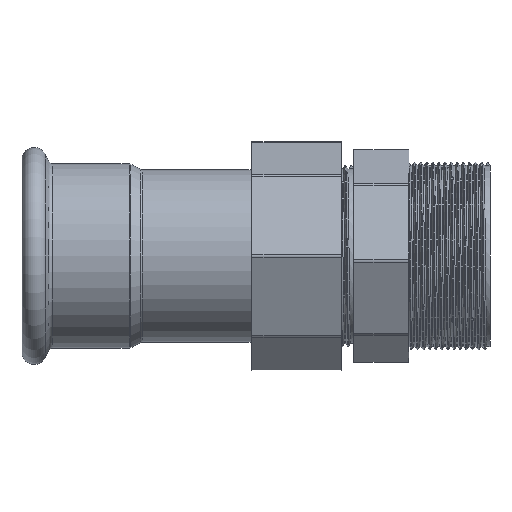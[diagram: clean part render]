
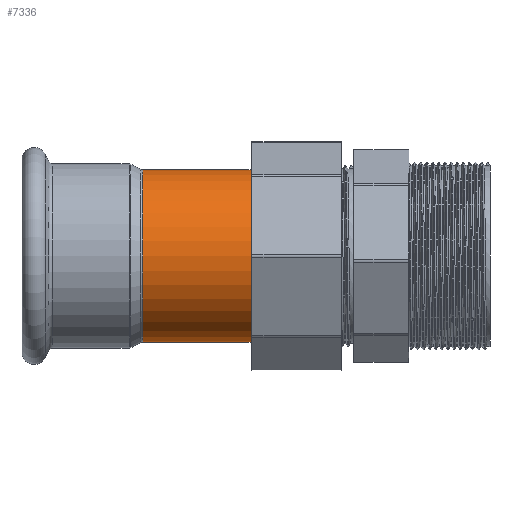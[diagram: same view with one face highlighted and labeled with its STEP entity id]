
A CAD part, front view. The second image highlights one B-rep face of the part: STEP entity #7336.
In plain terms, the highlighted cylindrical face has radius 21.15 mm (diameter 42.3 mm), a partial arc.
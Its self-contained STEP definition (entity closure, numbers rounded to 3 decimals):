
#164 = ORIENTED_EDGE ( 'NONE', *, *, #1052, .T. ) ;
#601 = CARTESIAN_POINT ( 'NONE',  ( -18.377, 0., 0. ) ) ;
#866 = CARTESIAN_POINT ( 'NONE',  ( -18.377, 0., 21.15 ) ) ;
#1000 = CARTESIAN_POINT ( 'NONE',  ( 10., 0., 21.15 ) ) ;
#1052 = EDGE_CURVE ( 'NONE', #11323, #5027, #5695, .T. ) ;
#1234 = CARTESIAN_POINT ( 'NONE',  ( 10., 0., 0. ) ) ;
#1800 = VECTOR ( 'NONE', #8638, 1000. ) ;
#1843 = VECTOR ( 'NONE', #3017, 1000. ) ;
#2811 = CARTESIAN_POINT ( 'NONE',  ( 0., 0., 0. ) ) ;
#2958 = CARTESIAN_POINT ( 'NONE',  ( 0., 0., -21.15 ) ) ;
#3017 = DIRECTION ( 'NONE',  ( -1., 0., 0. ) ) ;
#3147 = ORIENTED_EDGE ( 'NONE', *, *, #3165, .F. ) ;
#3165 = EDGE_CURVE ( 'NONE', #10777, #10515, #10081, .T. ) ;
#3263 = AXIS2_PLACEMENT_3D ( 'NONE', #601, #4122, #7864 ) ;
#3362 = AXIS2_PLACEMENT_3D ( 'NONE', #1234, #7664, #8573 ) ;
#3693 = CYLINDRICAL_SURFACE ( 'NONE', #5750, 21.15 ) ;
#4122 = DIRECTION ( 'NONE',  ( 1., 0., 0. ) ) ;
#4688 = CIRCLE ( 'NONE', #3362, 21.15 ) ;
#5027 = VERTEX_POINT ( 'NONE', #866 ) ;
#5164 = ORIENTED_EDGE ( 'NONE', *, *, #7222, .T. ) ;
#5236 = EDGE_LOOP ( 'NONE', ( #3147, #9484, #164, #5164 ) ) ;
#5611 = DIRECTION ( 'NONE',  ( -1., 0., 0. ) ) ;
#5695 = LINE ( 'NONE', #6606, #1800 ) ;
#5750 = AXIS2_PLACEMENT_3D ( 'NONE', #2811, #5611, #10115 ) ;
#5825 = CARTESIAN_POINT ( 'NONE',  ( -18.377, 0., -21.15 ) ) ;
#6606 = CARTESIAN_POINT ( 'NONE',  ( 0., 0., 21.15 ) ) ;
#6906 = CARTESIAN_POINT ( 'NONE',  ( 10., 0., -21.15 ) ) ;
#7222 = EDGE_CURVE ( 'NONE', #5027, #10515, #11473, .T. ) ;
#7336 = ADVANCED_FACE ( 'NONE', ( #7607 ), #3693, .T. ) ;
#7607 = FACE_OUTER_BOUND ( 'NONE', #5236, .T. ) ;
#7664 = DIRECTION ( 'NONE',  ( 1., 0., 0. ) ) ;
#7864 = DIRECTION ( 'NONE',  ( 0., 0., 1. ) ) ;
#8573 = DIRECTION ( 'NONE',  ( 0., 0., -1. ) ) ;
#8631 = EDGE_CURVE ( 'NONE', #11323, #10777, #4688, .T. ) ;
#8638 = DIRECTION ( 'NONE',  ( -1., 0., 0. ) ) ;
#9484 = ORIENTED_EDGE ( 'NONE', *, *, #8631, .F. ) ;
#10081 = LINE ( 'NONE', #2958, #1843 ) ;
#10115 = DIRECTION ( 'NONE',  ( 0., 0., 1. ) ) ;
#10515 = VERTEX_POINT ( 'NONE', #5825 ) ;
#10777 = VERTEX_POINT ( 'NONE', #6906 ) ;
#11323 = VERTEX_POINT ( 'NONE', #1000 ) ;
#11473 = CIRCLE ( 'NONE', #3263, 21.15 ) ;
